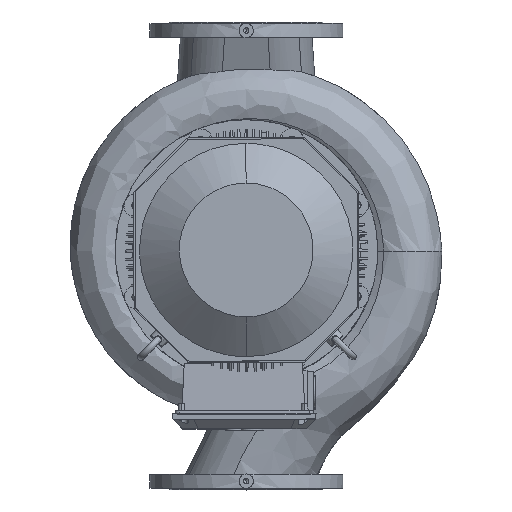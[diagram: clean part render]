
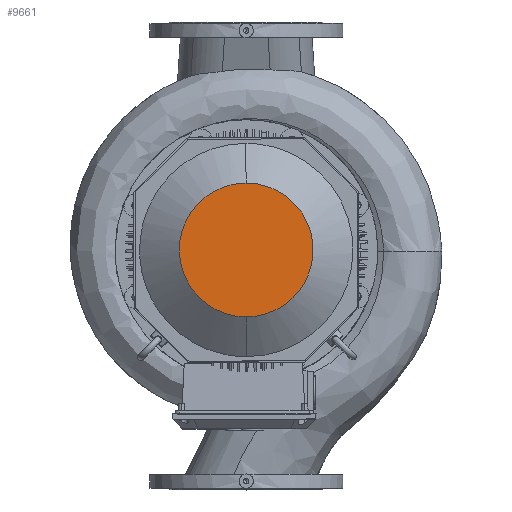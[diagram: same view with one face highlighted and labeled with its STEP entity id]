
A CAD part, top view. The second image highlights one B-rep face of the part: STEP entity #9661.
In plain terms, the highlighted free-form (B-spline) face has degree [1, 1] with [2, 2] control points.
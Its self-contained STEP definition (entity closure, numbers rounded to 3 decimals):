
#9661=ADVANCED_FACE('      F2',(#24392),#24393,.T.);
#9743=EDGE_CURVE('      E3',#24518,#24519,#24520,.T.);
#9747=EDGE_CURVE('      E3',#24519,#24518,#24524,.T.);
#24392=FACE_OUTER_BOUND('',#51051,.T.);
#24393=B_SPLINE_SURFACE_WITH_KNOTS('',1,1,((#51052,#51053),(#51054,#51055)),.UNSPECIFIED.,.F.,.F.,.F.,(2,2),(2,2),(0.044,0.955),(0.039,0.96),.UNSPECIFIED.);
#24518=VERTEX_POINT('',#51496);
#24519=VERTEX_POINT('',#51497);
#24520=(B_SPLINE_CURVE(2,(#51499,#51500,#51501,#51502,#51503),.UNSPECIFIED.,.F.,.F.)B_SPLINE_CURVE_WITH_KNOTS((3,2,3),(80.914,107.885,161.828),.UNSPECIFIED.)RATIONAL_B_SPLINE_CURVE((0.75,0.75,1.0,0.5,1.0))BOUNDED_CURVE()REPRESENTATION_ITEM('')GEOMETRIC_REPRESENTATION_ITEM()CURVE());
#24524=(B_SPLINE_CURVE(2,(#51517,#51518,#51519,#51520,#51521),.UNSPECIFIED.,.F.,.F.)B_SPLINE_CURVE_WITH_KNOTS((3,2,3),(0.0,53.943,80.914),.UNSPECIFIED.)RATIONAL_B_SPLINE_CURVE((1.0,0.5,1.0,0.75,0.75))BOUNDED_CURVE()REPRESENTATION_ITEM('')GEOMETRIC_REPRESENTATION_ITEM()CURVE());
#51051=EDGE_LOOP('',(#102835,#102836));
#51052=CARTESIAN_POINT('',(-63.355,165.897,-188.0));
#51053=CARTESIAN_POINT('',(-344.576,165.897,-188.0));
#51054=CARTESIAN_POINT('',(-63.355,-114.887,-188.0));
#51055=CARTESIAN_POINT('',(-344.576,-114.887,-188.0));
#51496=CARTESIAN_POINT('',(-204.061,165.425,-188.0));
#51497=CARTESIAN_POINT('',(-204.061,-114.868,-188.0));
#51499=CARTESIAN_POINT('',(-204.061,165.425,-188.0));
#51500=CARTESIAN_POINT('',(-284.975,165.425,-188.0));
#51501=CARTESIAN_POINT('',(-325.432,95.352,-188.0));
#51502=CARTESIAN_POINT('',(-446.802,-114.868,-188.0));
#51503=CARTESIAN_POINT('',(-204.061,-114.868,-188.0));
#51517=CARTESIAN_POINT('',(-204.061,-114.868,-188.0));
#51518=CARTESIAN_POINT('',(38.68,-114.868,-188.0));
#51519=CARTESIAN_POINT('',(-82.69,95.352,-188.0));
#51520=CARTESIAN_POINT('',(-123.147,165.425,-188.0));
#51521=CARTESIAN_POINT('',(-204.061,165.425,-188.0));
#102835=ORIENTED_EDGE('',*,*,#9747,.F.);
#102836=ORIENTED_EDGE('',*,*,#9743,.F.);
